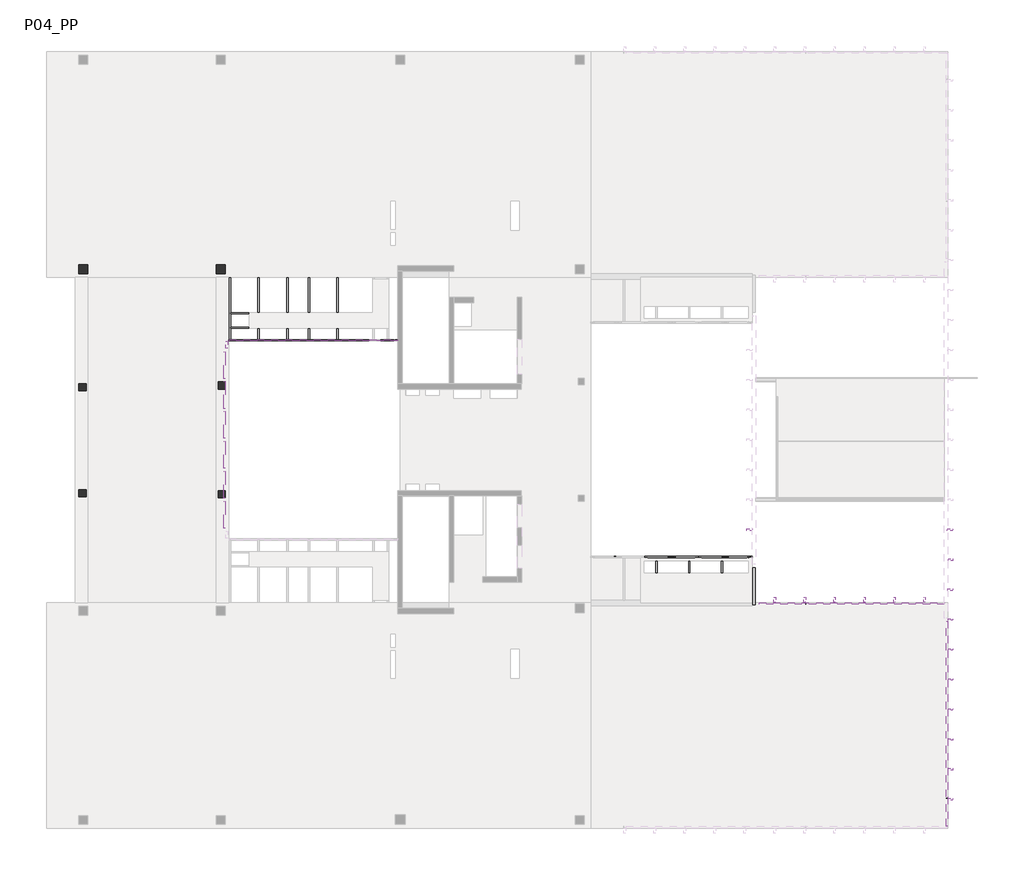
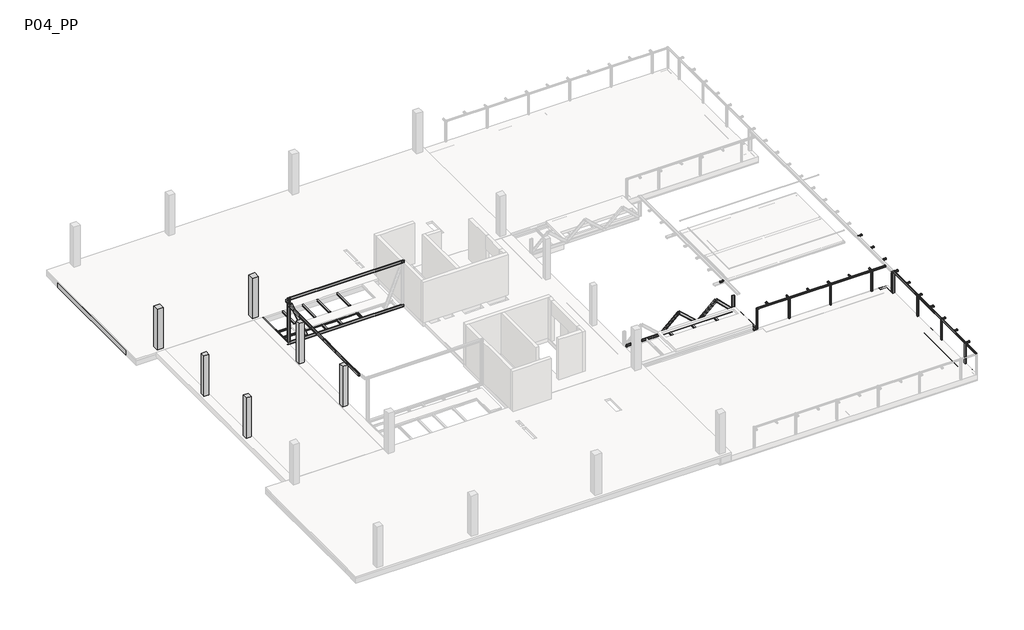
# One storey, part 3 of 5: 53 beams, 16 columns.
"""IFC4 building model written with IfcOpenShell, lengths in millimetres."""

from ifc_helpers import new_model, si_unit, frame, origin, place, context, project, spatial, polyline, outline, extrude, faceted_brep, transform, mapped, element, save
from components import m_hss_rectangular_hss_100x100_c8b4e19b, m_hss_rectangular_hss_100x100_b34a554f, m_hss_rectangular_hss_100x100_4e9eaf21, m_hss_rectangular_hss_100x100_6975e544, m_hss_rectangular_hss_100x100_2c025c62, m_hss_rectangular_hss_100x100_c08f57dd, m_hss_rectangular_hss_100x100_087ac0b1, m_hss_rectangular_hss_200x100_5f17627f, m_hss_rectangular_hss_200x100_02db10bf, m_hss_rectangular_hss_200x100_1788cd85, m_hss_rectangular_hss_200x100_fa2a969a, m_hss_rectangular_hss_200x100_f713b872, m_hss_rectangular_hss_200x100_5a28828e, ub_universal_beams_ipe_160x82_a4b44378, ub_universal_beams_ipe_160x82_3ea767f5, ub_universal_beams_ipe_160x82_7de70bc2, ub_universal_beams_ipe300x150_8c65f400, upn120x55_8ca40f5d, upn120x55_f8c29ef0, upn120x55_6f2391d9, upn200x75_1f64faac, upn200x75_ab35ba71, upn200x75_1c3169bc, upn200x75_e9c3a9f1, upn200x75_de95b273, upn200x75_58a91052, upn200x75_e630fb83, rhs_rectangular_hollow_section_column_100x100x5_0rhs_4e292c9f, rhs_rectangular_hollow_section_column_100x100x5_0rhs_ce2d9d36, rhs_rectangular_hollow_section_column_200x150x5_0rhs_b1198f0b, upn_200x75_6854b640, upn_200x75_6a680606

model = new_model("IFC4")

# Units and contexts
model_context = context("Model", 3, world=origin())
ifc_project = project(units=[si_unit("LENGTHUNIT", "METRE", prefix="MILLI")], contexts=[model_context])

# Site, building, storey
site = spatial("IfcSite", under=ifc_project)
building = spatial("IfcBuilding", under=site)
storey = spatial("IfcBuildingStorey", under=building, Name="P04_PP", Elevation=22410.0)

# Beams
placement = place(None, origin())
element("IfcBeam", 1, ObjectType="M_Concrete-Rectangular Beam : 700 x 500mm", at=placement, inside=storey, context=model_context, shape_type="Brep", body=[
    faceted_brep([(16258.7687141, -16410.5871866, 22110.0), (16758.7685986, -16410.5871866, 22110.0), (16958.7687141, -16410.5871866, 22110.0), (16958.7687141, -4560.5861501, 22110.0), (16258.7687141, -4560.5861501, 22110.0), (16258.7687141, -4760.6066112, 22110.0), (16758.7685963, -4760.6066108, 22110.0), (16758.7685966, -5260.6066108, 22110.0), (16258.7687141, -5260.6066112, 22110.0), (16958.7687141, -4560.5861501, 21610.0), (16958.7687141, -16410.5871866, 21610.0), (16758.7685986, -16410.5871866, 21610.0), (16258.7687141, -16410.5871866, 21610.0), (16258.7687141, -5260.6066112, 21610.0), (16758.7685966, -5260.6066108, 21610.0), (16758.7685963, -4760.6066108, 21610.0), (16258.7687141, -4760.6066112, 21610.0), (16258.7687141, -4560.5861501, 21610.0)], [[[0, 1, 2, 3, 4, 5, 6, 7, 8]], [[9, 3, 2, 10]], [[10, 11, 12, 13, 14, 15, 16, 17, 9]], [[4, 17, 16, 5]], [[2, 1, 0, 12, 11, 10]], [[7, 14, 13, 8]], [[14, 7, 6, 15]], [[4, 3, 9, 17]], [[15, 6, 5, 16]], [[12, 0, 8, 13]]]),
])
element("IfcBeam", 2, ObjectType="M_Concrete-Rectangular Beam : 700 x 550mm", at=placement, inside=storey, context=model_context, shape_type="SweptSolid", body=[
    extrude(outline(polyline([(-32490.2931069, 15039.4134441), (-33190.2931069, 15039.4134441), (-33190.2931069, 24589.4144807), (-32490.2931069, 24589.4144807), (-32490.2931069, 15039.4134441)])), frame((0.0, 0.0, 21860.0), z_axis=(0.0, 0.0, 1.0), x_axis=(1.0, 0.0, 0.0)), (0.0, 0.0, 1.0), 400.0),
])
m_hss_rectangular_hss_100x100_shape = m_hss_rectangular_hss_100x100_c8b4e19b(model_context)
element("IfcBeam", 3, ObjectType="M_HSS Rectangular : HSS 100x100", at=placement, inside=storey, context=model_context, shape_type="MappedRepresentation", body=[
    mapped(m_hss_rectangular_hss_100x100_shape, transform((11573.24324, -4611.4243823, 23860.0), x_axis=(0.9999999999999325, -3.676253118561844e-07, 0.0), y_axis=(3.676253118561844e-07, 0.9999999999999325, 0.0), z_axis=(0.0, 0.0, 1.0))),
])
m_hss_rectangular_hss_100x100_2_shape = m_hss_rectangular_hss_100x100_b34a554f(model_context)
element("IfcBeam", 4, ObjectType="M_HSS Rectangular : HSS 100x100", at=placement, inside=storey, context=model_context, shape_type="MappedRepresentation", body=[
    mapped(m_hss_rectangular_hss_100x100_2_shape, transform((16908.7645908, -11285.848772, 23860.0), x_axis=(-3.6762533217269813e-07, -0.9999999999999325, 0.0), y_axis=(0.9999999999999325, -3.6762533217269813e-07, 0.0), z_axis=(0.0, 0.0, 1.0))),
])
m_hss_rectangular_hss_100x100_3_shape = m_hss_rectangular_hss_100x100_4e9eaf21(model_context)
element("IfcBeam", 5, ObjectType="M_HSS Rectangular : HSS 100x100", at=placement, inside=storey, context=model_context, shape_type="MappedRepresentation", body=[
    mapped(m_hss_rectangular_hss_100x100_3_shape, transform((17073.765384, -15511.3145167, 23860.0), x_axis=(1.0, -1.2790382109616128e-09, 0.0), y_axis=(1.2790382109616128e-09, 1.0, 0.0), z_axis=(0.0, 0.0, 1.0))),
])
element("IfcBeam", 6, ObjectType="M_HSS Rectangular : HSS 100x100", at=placement, inside=storey, context=model_context, shape_type="MappedRepresentation", body=[
    mapped(m_hss_rectangular_hss_100x100_3_shape, transform((17073.765384, -12177.9207301, 23860.0), x_axis=(1.0, -1.2790382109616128e-09, 0.0), y_axis=(1.2790382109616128e-09, 1.0, 0.0), z_axis=(0.0, 0.0, 1.0))),
])
element("IfcBeam", 7, ObjectType="M_HSS Rectangular : HSS 100x100", at=placement, inside=storey, context=model_context, shape_type="MappedRepresentation", body=[
    mapped(m_hss_rectangular_hss_100x100_3_shape, transform((17073.765384, -8844.5269434, 23860.0), x_axis=(1.0, -1.2790382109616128e-09, 0.0), y_axis=(1.2790382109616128e-09, 1.0, 0.0), z_axis=(0.0, 0.0, 1.0))),
])
m_hss_rectangular_hss_100x100_4_shape = m_hss_rectangular_hss_100x100_6975e544(model_context)
element("IfcBeam", 8, ObjectType="M_HSS Rectangular : HSS 100x100", at=placement, inside=storey, context=model_context, shape_type="MappedRepresentation", body=[
    mapped(m_hss_rectangular_hss_100x100_4_shape, transform((17073.765384, -511.0424767, 23860.0), x_axis=(1.0, -1.2790382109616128e-09, 0.0), y_axis=(1.2790382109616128e-09, 1.0, 0.0), z_axis=(0.0, 0.0, 1.0))),
])
element("IfcBeam", 9, ObjectType="M_HSS Rectangular : HSS 100x100", at=placement, inside=storey, context=model_context, shape_type="MappedRepresentation", body=[
    mapped(m_hss_rectangular_hss_100x100_3_shape, transform((17073.765384, -13844.6176234, 23860.0), x_axis=(1.0, -1.2790382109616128e-09, 0.0), y_axis=(1.2790382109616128e-09, 1.0, 0.0), z_axis=(0.0, 0.0, 1.0))),
])
element("IfcBeam", 10, ObjectType="M_HSS Rectangular : HSS 100x100", at=placement, inside=storey, context=model_context, shape_type="MappedRepresentation", body=[
    mapped(m_hss_rectangular_hss_100x100_3_shape, transform((17073.765384, -10511.2238367, 23860.0), x_axis=(1.0, -1.2790382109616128e-09, 0.0), y_axis=(1.2790382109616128e-09, 1.0, 0.0), z_axis=(0.0, 0.0, 1.0))),
])
m_hss_rectangular_hss_100x100_5_shape = m_hss_rectangular_hss_100x100_2c025c62(model_context)
element("IfcBeam", 11, ObjectType="M_HSS Rectangular : HSS 100x100", at=placement, inside=storey, context=model_context, shape_type="MappedRepresentation", body=[
    mapped(m_hss_rectangular_hss_100x100_5_shape, transform((17073.765384, -7177.8300501, 23860.0), x_axis=(1.0, -1.2790382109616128e-09, 0.0), y_axis=(1.2790382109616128e-09, 1.0, 0.0), z_axis=(0.0, 0.0, 1.0))),
])
element("IfcBeam", 12, ObjectType="M_HSS Rectangular : HSS 100x100", at=placement, inside=storey, context=model_context, shape_type="MappedRepresentation", body=[
    mapped(m_hss_rectangular_hss_100x100_3_shape, transform((17073.765384, -5511.1331567, 23860.0), x_axis=(1.0, -1.2790382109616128e-09, 0.0), y_axis=(1.2790382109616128e-09, 1.0, 0.0), z_axis=(0.0, 0.0, 1.0))),
])
m_hss_rectangular_hss_100x100_6_shape = m_hss_rectangular_hss_100x100_c08f57dd(model_context)
element("IfcBeam", 13, ObjectType="M_HSS Rectangular : HSS 100x100", at=placement, inside=storey, context=model_context, shape_type="MappedRepresentation", body=[
    mapped(m_hss_rectangular_hss_100x100_6_shape, transform((17098.7524759, -3844.4362634, 23860.0), x_axis=(1.0, -1.2790382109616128e-09, 0.0), y_axis=(1.2790382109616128e-09, 1.0, 0.0), z_axis=(0.0, 0.0, 1.0))),
])
element("IfcBeam", 14, ObjectType="M_HSS Rectangular : HSS 100x100", at=placement, inside=storey, context=model_context, shape_type="MappedRepresentation", body=[
    mapped(m_hss_rectangular_hss_100x100_6_shape, transform((5918.427244, -511.0145194, 23860.0), x_axis=(1.0, -1.2790382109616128e-09, 0.0), y_axis=(1.2790382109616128e-09, 1.0, 0.0), z_axis=(0.0, 0.0, 1.0))),
])
element("IfcBeam", 15, ObjectType="M_HSS Rectangular : HSS 100x100", at=placement, inside=storey, context=model_context, shape_type="MappedRepresentation", body=[
    mapped(m_hss_rectangular_hss_100x100_3_shape, transform((15653.0129839, -4446.4224043, 23860.0), x_axis=(1.2790665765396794e-09, 1.0, 0.0), y_axis=(-1.0, 1.2790665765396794e-09, 0.0), z_axis=(0.0, 0.0, 1.0))),
])
element("IfcBeam", 16, ObjectType="M_HSS Rectangular : HSS 100x100", at=placement, inside=storey, context=model_context, shape_type="MappedRepresentation", body=[
    mapped(m_hss_rectangular_hss_100x100_3_shape, transform((12319.0129838, -4446.4224043, 23860.0), x_axis=(1.2790665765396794e-09, 1.0, 0.0), y_axis=(-1.0, 1.2790665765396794e-09, 0.0), z_axis=(0.0, 0.0, 1.0))),
])
element("IfcBeam", 17, ObjectType="M_HSS Rectangular : HSS 100x100", at=placement, inside=storey, context=model_context, shape_type="MappedRepresentation", body=[
    mapped(m_hss_rectangular_hss_100x100_3_shape, transform((8985.0129837, -4446.4224043, 23860.0), x_axis=(1.2790665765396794e-09, 1.0, 0.0), y_axis=(-1.0, 1.2790665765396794e-09, 0.0), z_axis=(0.0, 0.0, 1.0))),
])
element("IfcBeam", 18, ObjectType="M_HSS Rectangular : HSS 100x100", at=placement, inside=storey, context=model_context, shape_type="MappedRepresentation", body=[
    mapped(m_hss_rectangular_hss_100x100_3_shape, transform((7318.0129836, -4446.4224043, 23860.0), x_axis=(1.2790665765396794e-09, 1.0, 0.0), y_axis=(-1.0, 1.2790665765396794e-09, 0.0), z_axis=(0.0, 0.0, 1.0))),
])
element("IfcBeam", 19, ObjectType="M_HSS Rectangular : HSS 100x100", at=placement, inside=storey, context=model_context, shape_type="MappedRepresentation", body=[
    mapped(m_hss_rectangular_hss_100x100_3_shape, transform((13986.0129838, -4446.4224043, 23860.0), x_axis=(1.2790665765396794e-09, 1.0, 0.0), y_axis=(-1.0, 1.2790665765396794e-09, 0.0), z_axis=(0.0, 0.0, 1.0))),
])
element("IfcBeam", 20, ObjectType="M_HSS Rectangular : HSS 100x100", at=placement, inside=storey, context=model_context, shape_type="MappedRepresentation", body=[
    mapped(m_hss_rectangular_hss_100x100_3_shape, transform((10652.0129837, -4446.4224043, 23860.0), x_axis=(1.2790665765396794e-09, 1.0, 0.0), y_axis=(-1.0, 1.2790665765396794e-09, 0.0), z_axis=(0.0, 0.0, 1.0))),
])
m_hss_rectangular_hss_100x100_7_shape = m_hss_rectangular_hss_100x100_087ac0b1(model_context)
element("IfcBeam", 21, ObjectType="M_HSS Rectangular : HSS 100x100", at=placement, inside=storey, context=model_context, shape_type="MappedRepresentation", body=[
    mapped(m_hss_rectangular_hss_100x100_7_shape, transform((17098.7376541, -2177.7393701, 23860.0), x_axis=(1.0, -1.2790382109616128e-09, 0.0), y_axis=(1.2790382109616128e-09, 1.0, 0.0), z_axis=(0.0, 0.0, 1.0))),
])
m_hss_rectangular_hss_200x100_shape = m_hss_rectangular_hss_200x100_5f17627f(model_context)
element("IfcBeam", 22, ObjectType="M_HSS Rectangular : HSS 200x100", at=placement, inside=storey, context=model_context, shape_type="MappedRepresentation", body=[
    mapped(m_hss_rectangular_hss_200x100_shape, transform((-23290.3172019, 8679.8399046, 26060.0), x_axis=(-3.182446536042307e-08, -0.9999999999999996, 0.0), y_axis=(0.9999999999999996, -3.182446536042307e-08, 0.0), z_axis=(0.0, 0.0, 1.0))),
])
m_hss_rectangular_hss_200x100_2_shape = m_hss_rectangular_hss_200x100_02db10bf(model_context)
element("IfcBeam", 23, ObjectType="M_HSS Rectangular : HSS 200x100", at=placement, inside=storey, context=model_context, shape_type="MappedRepresentation", body=[
    mapped(m_hss_rectangular_hss_200x100_2_shape, transform((-23290.3172557, 6989.4139649, 26060.0), x_axis=(-3.182446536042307e-08, -0.9999999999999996, 0.0), y_axis=(0.9999999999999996, -3.182446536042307e-08, 0.0), z_axis=(0.0, 0.0, 1.0))),
])
element("IfcBeam", 24, ObjectType="M_HSS Rectangular : HSS 200x100", at=placement, inside=storey, context=model_context, shape_type="MappedRepresentation", body=[
    mapped(m_hss_rectangular_hss_200x100_2_shape, transform((-23290.3174148, 1989.4143425, 26060.0), x_axis=(-3.182446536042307e-08, -0.9999999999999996, 0.0), y_axis=(0.9999999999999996, -3.182446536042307e-08, 0.0), z_axis=(0.0, 0.0, 1.0))),
])
m_hss_rectangular_hss_200x100_3_shape = m_hss_rectangular_hss_200x100_1788cd85(model_context)
element("IfcBeam", 25, ObjectType="M_HSS Rectangular : HSS 200x100", at=placement, inside=storey, context=model_context, shape_type="MappedRepresentation", body=[
    mapped(m_hss_rectangular_hss_200x100_3_shape, transform((-23290.3173087, 5322.9883919, 26060.0), x_axis=(-3.182446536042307e-08, -0.9999999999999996, 0.0), y_axis=(0.9999999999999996, -3.182446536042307e-08, 0.0), z_axis=(0.0, 0.0, 1.0))),
])
m_hss_rectangular_hss_200x100_4_shape = m_hss_rectangular_hss_200x100_fa2a969a(model_context)
element("IfcBeam", 26, ObjectType="M_HSS Rectangular : HSS 200x100", at=placement, inside=storey, context=model_context, shape_type="MappedRepresentation", body=[
    mapped(m_hss_rectangular_hss_200x100_4_shape, transform((-23290.3173618, 3656.3218509, 26060.0), x_axis=(-3.182446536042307e-08, -0.9999999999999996, 0.0), y_axis=(0.9999999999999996, -3.182446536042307e-08, 0.0), z_axis=(0.0, 0.0, 1.0))),
])
m_hss_rectangular_hss_200x100_5_shape = m_hss_rectangular_hss_200x100_f713b872(model_context)
element("IfcBeam", 27, ObjectType="M_HSS Rectangular : HSS 200x100", at=placement, inside=storey, context=model_context, shape_type="MappedRepresentation", body=[
    mapped(m_hss_rectangular_hss_200x100_5_shape, transform((-23290.3174678, 322.7478039, 26060.0), x_axis=(-3.182446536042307e-08, -0.9999999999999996, 0.0), y_axis=(0.9999999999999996, -3.182446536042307e-08, 0.0), z_axis=(0.0, 0.0, 1.0))),
])
m_hss_rectangular_hss_200x100_6_shape = m_hss_rectangular_hss_200x100_5a28828e(model_context)
element("IfcBeam", 28, ObjectType="M_HSS Rectangular : HSS 200x100", at=placement, inside=storey, context=model_context, shape_type="MappedRepresentation", body=[
    mapped(m_hss_rectangular_hss_200x100_6_shape, transform((-23160.3171618, 9792.3965304, 26060.0), x_axis=(0.0, 1.0, 0.0), y_axis=(-1.0, 0.0, 0.0), z_axis=(0.0, 0.0, 1.0))),
])
ub_universal_beams_ipe_160x82_shape = ub_universal_beams_ipe_160x82_a4b44378(model_context)
element("IfcBeam", 29, ObjectType="UB-Universal Beams : IPE 160x82", at=placement, inside=storey, context=model_context, shape_type="MappedRepresentation", body=[
    mapped(ub_universal_beams_ipe_160x82_shape, transform((-16990.4459316, 12171.9464061, 22330.0), x_axis=(0.0, -1.0, 0.0), y_axis=(1.0, 0.0, 0.0), z_axis=(0.0, 0.0, 1.0))),
])
element("IfcBeam", 30, ObjectType="UB-Universal Beams : IPE 160x82", at=placement, inside=storey, context=model_context, shape_type="MappedRepresentation", body=[
    mapped(ub_universal_beams_ipe_160x82_shape, transform((-18590.4459308, 12171.9463807, 22330.0), x_axis=(0.0, -1.0, 0.0), y_axis=(1.0, 0.0, 0.0), z_axis=(0.0, 0.0, 1.0))),
])
element("IfcBeam", 31, ObjectType="UB-Universal Beams : IPE 160x82", at=placement, inside=storey, context=model_context, shape_type="MappedRepresentation", body=[
    mapped(ub_universal_beams_ipe_160x82_shape, transform((-19790.4459314, 12171.9463617, 22330.0), x_axis=(0.0, -1.0, 0.0), y_axis=(1.0, 0.0, 0.0), z_axis=(0.0, 0.0, 1.0))),
])
element("IfcBeam", 32, ObjectType="UB-Universal Beams : IPE 160x82", at=placement, inside=storey, context=model_context, shape_type="MappedRepresentation", body=[
    mapped(ub_universal_beams_ipe_160x82_shape, transform((-21390.4459306, 12171.9463363, 22330.0), x_axis=(0.0, -1.0, 0.0), y_axis=(1.0, 0.0, 0.0), z_axis=(0.0, 0.0, 1.0))),
])
ub_universal_beams_ipe_160x82_2_shape = ub_universal_beams_ipe_160x82_3ea767f5(model_context)
element("IfcBeam", 33, ObjectType="UB-Universal Beams : IPE 160x82", at=placement, inside=storey, context=model_context, shape_type="MappedRepresentation", body=[
    mapped(ub_universal_beams_ipe_160x82_2_shape, transform((-22991.1860553, 12171.9463109, 22330.0), x_axis=(0.0, -1.0, 0.0), y_axis=(1.0, 0.0, 0.0), z_axis=(0.0, 0.0, 1.0))),
])
ub_universal_beams_ipe_160x82_3_shape = ub_universal_beams_ipe_160x82_7de70bc2(model_context)
element("IfcBeam", 34, ObjectType="UB-Universal Beams : IPE 160x82", at=placement, inside=storey, context=model_context, shape_type="MappedRepresentation", body=[
    mapped(ub_universal_beams_ipe_160x82_3_shape, transform((748.7433116, -3333.1913576, 22330.0), x_axis=(3.499064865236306e-06, 0.9999999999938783, 0.0), y_axis=(-0.9999999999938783, 3.499064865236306e-06, 0.0), z_axis=(0.0, 0.0, 1.0))),
])
element("IfcBeam", 35, ObjectType="UB-Universal Beams : IPE 160x82", at=placement, inside=storey, context=model_context, shape_type="MappedRepresentation", body=[
    mapped(ub_universal_beams_ipe_160x82_3_shape, transform((2565.2255424, -3333.1913287, 22330.0), x_axis=(3.4989007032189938e-06, 0.9999999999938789, 0.0), y_axis=(-0.9999999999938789, 3.4989007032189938e-06, 0.0), z_axis=(0.0, 0.0, 1.0))),
])
element("IfcBeam", 36, ObjectType="UB-Universal Beams : IPE 160x82", at=placement, inside=storey, context=model_context, shape_type="MappedRepresentation", body=[
    mapped(ub_universal_beams_ipe_160x82_3_shape, transform((4381.7077724, -3333.1912999, 22330.0), x_axis=(3.499229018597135e-06, 0.9999999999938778, 0.0), y_axis=(-0.9999999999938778, 3.499229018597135e-06, 0.0), z_axis=(0.0, 0.0, 1.0))),
])
ub_universal_beams_ipe300x150_shape = ub_universal_beams_ipe300x150_8c65f400(model_context)
element("IfcBeam", 37, ObjectType="UB-Universal Beams : IPE300x150", at=placement, inside=storey, context=model_context, shape_type="MappedRepresentation", body=[
    mapped(ub_universal_beams_ipe300x150_shape, transform((6163.8308521, -3639.3504657, 22260.0), x_axis=(0.0, -1.0, 0.0), y_axis=(1.0, 0.0, 0.0), z_axis=(0.0, 0.0, 1.0))),
])
upn120x55_shape = upn120x55_8ca40f5d(model_context)
element("IfcBeam", 38, ObjectType="M_MC Shapes : UPN120x55", at=placement, inside=storey, context=model_context, shape_type="MappedRepresentation", body=[
    mapped(upn120x55_shape, transform((-22165.4459321, 11551.9793105, 22350.0), x_axis=(0.9999999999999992, 4.0441290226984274e-08, 0.0), y_axis=(-4.0441290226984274e-08, 0.9999999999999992, 0.0), z_axis=(0.0, 0.0, 1.0))),
])
element("IfcBeam", 39, ObjectType="M_MC Shapes : UPN120x55", at=placement, inside=storey, context=model_context, shape_type="MappedRepresentation", body=[
    mapped(upn120x55_shape, transform((-22165.4459321, 10751.9793096, 22350.0), x_axis=(0.9999999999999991, 4.319865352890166e-08, 0.0), y_axis=(-4.319865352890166e-08, 0.9999999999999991, 0.0), z_axis=(0.0, 0.0, 1.0))),
])
upn120x55_2_shape = upn120x55_f8c29ef0(model_context)
element("IfcBeam", 40, ObjectType="M_MC Shapes : UPN120x55", at=placement, inside=storey, context=model_context, shape_type="MappedRepresentation", body=[
    mapped(upn120x55_2_shape, transform((-20590.445931, 10751.9793776, 22350.0), x_axis=(0.9999999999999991, 4.319865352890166e-08, 0.0), y_axis=(-4.319865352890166e-08, 0.9999999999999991, 0.0), z_axis=(0.0, 0.0, 1.0))),
])
element("IfcBeam", 41, ObjectType="M_MC Shapes : UPN120x55", at=placement, inside=storey, context=model_context, shape_type="MappedRepresentation", body=[
    mapped(upn120x55_2_shape, transform((-17790.4459312, 10751.9794985, 22350.0), x_axis=(0.9999999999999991, 4.319865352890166e-08, 0.0), y_axis=(-4.319865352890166e-08, 0.9999999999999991, 0.0), z_axis=(0.0, 0.0, 1.0))),
])
element("IfcBeam", 42, ObjectType="M_MC Shapes : UPN120x55", at=placement, inside=storey, context=model_context, shape_type="MappedRepresentation", body=[
    mapped(upn120x55_2_shape, transform((-20590.445931, 11551.9793742, 22350.0), x_axis=(0.9999999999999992, 4.0441290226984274e-08, 0.0), y_axis=(-4.0441290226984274e-08, 0.9999999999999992, 0.0), z_axis=(0.0, 0.0, 1.0))),
])
element("IfcBeam", 43, ObjectType="M_MC Shapes : UPN120x55", at=placement, inside=storey, context=model_context, shape_type="MappedRepresentation", body=[
    mapped(upn120x55_2_shape, transform((-17790.4459312, 11551.9794874, 22350.0), x_axis=(0.9999999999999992, 4.0441290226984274e-08, 0.0), y_axis=(-4.0441290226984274e-08, 0.9999999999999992, 0.0), z_axis=(0.0, 0.0, 1.0))),
])
upn120x55_3_shape = upn120x55_6f2391d9(model_context)
element("IfcBeam", 44, ObjectType="M_MC Shapes : UPN120x55", at=placement, inside=storey, context=model_context, shape_type="MappedRepresentation", body=[
    mapped(upn120x55_3_shape, transform((-19190.4459311, 10751.9794381, 22350.0), x_axis=(0.9999999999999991, 4.319865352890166e-08, 0.0), y_axis=(-4.319865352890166e-08, 0.9999999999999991, 0.0), z_axis=(0.0, 0.0, 1.0))),
])
element("IfcBeam", 45, ObjectType="M_MC Shapes : UPN120x55", at=placement, inside=storey, context=model_context, shape_type="MappedRepresentation", body=[
    mapped(upn120x55_3_shape, transform((-19190.4459311, 11551.9794308, 22350.0), x_axis=(0.9999999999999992, 4.0441290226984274e-08, 0.0), y_axis=(-4.0441290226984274e-08, 0.9999999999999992, 0.0), z_axis=(0.0, 0.0, 1.0))),
])
upn200x75_shape = upn200x75_1f64faac(model_context)
element("IfcBeam", 46, ObjectType="M_MC Shapes : UPN200x75", at=placement, inside=storey, context=model_context, shape_type="MappedRepresentation", body=[
    mapped(upn200x75_shape, transform((-22208.7675596, 10001.2791702, 24230.6012021), x_axis=(-0.3712989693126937, 1.179124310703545e-08, 0.9285133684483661), y_axis=(3.175673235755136e-08, 0.9999999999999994, 0.0), z_axis=(-0.9285133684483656, 2.9486550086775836e-08, -0.3712989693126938))),
])
upn200x75_2_shape = upn200x75_ab35ba71(model_context)
element("IfcBeam", 47, ObjectType="M_MC Shapes : UPN200x75", at=placement, inside=storey, context=model_context, shape_type="MappedRepresentation", body=[
    mapped(upn200x75_2_shape, transform((-18453.2517869, 10001.2793219, 22310.0), x_axis=(0.9999999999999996, 3.175670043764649e-08, 0.0), y_axis=(-3.175670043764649e-08, 0.9999999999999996, 0.0), z_axis=(0.0, 0.0, 1.0))),
])
upn200x75_3_shape = upn200x75_1c3169bc(model_context)
element("IfcBeam", 48, ObjectType="M_MC Shapes : UPN200x75", at=placement, inside=storey, context=model_context, shape_type="MappedRepresentation", body=[
    mapped(upn200x75_3_shape, transform((2321.5369207, -2010.7318503, 22985.0000184), x_axis=(0.743294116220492, -1.1576576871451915e-08, -0.6689647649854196), y_axis=(-1.5574694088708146e-08, -1.0, 0.0), z_axis=(-0.6689647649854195, 1.041892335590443e-08, -0.7432941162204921))),
])
upn200x75_4_shape = upn200x75_e9c3a9f1(model_context)
element("IfcBeam", 49, ObjectType="M_MC Shapes : UPN200x75", at=placement, inside=storey, context=model_context, shape_type="MappedRepresentation", body=[
    mapped(upn200x75_4_shape, transform((3821.5369615, -2010.7318584, 22985.0000184), x_axis=(-0.7432941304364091, -1.1576555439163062e-08, -0.6689647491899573), y_axis=(-1.5574660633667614e-08, 1.0, 0.0), z_axis=(0.6689647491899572, 1.0418897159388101e-08, -0.7432941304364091))),
])
element("IfcBeam", 50, ObjectType="M_MC Shapes : UPN200x75", at=placement, inside=storey, context=model_context, shape_type="MappedRepresentation", body=[
    mapped(upn200x75_4_shape, transform((821.5369591, -2010.7318569, 22985.0000184), x_axis=(-0.7432941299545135, -1.1573262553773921e-08, -0.6689647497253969), y_axis=(-1.5570230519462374e-08, 1.0, 0.0), z_axis=(0.6689647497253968, 1.0415933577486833e-08, -0.7432941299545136))),
])
upn200x75_5_shape = upn200x75_de95b273(model_context)
element("IfcBeam", 51, ObjectType="M_MC Shapes : UPN200x75", at=placement, inside=storey, context=model_context, shape_type="MappedRepresentation", body=[
    mapped(upn200x75_5_shape, transform((1566.4513123, -2010.7317513, 22310.0), x_axis=(0.9999999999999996, -3.175673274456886e-08, 0.0), y_axis=(3.175673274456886e-08, 0.9999999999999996, 0.0), z_axis=(0.0, 0.0, 1.0))),
])
upn200x75_6_shape = upn200x75_58a91052(model_context)
element("IfcBeam", 52, ObjectType="M_MC Shapes : UPN200x75", at=placement, inside=storey, context=model_context, shape_type="MappedRepresentation", body=[
    mapped(upn200x75_6_shape, transform((5259.036978, -2010.7318482, 22985.0000184), x_axis=(0.713563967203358, -1.1791251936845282e-08, -0.7005900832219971), y_axis=(-1.652445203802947e-08, -0.9999999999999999, 0.0), z_axis=(-0.7005900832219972, 1.1576868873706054e-08, -0.713563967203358))),
])
upn200x75_7_shape = upn200x75_e630fb83(model_context)
element("IfcBeam", 53, ObjectType="M_MC Shapes : UPN200x75", at=placement, inside=storey, context=model_context, shape_type="MappedRepresentation", body=[
    mapped(upn200x75_7_shape, transform((-18278.2406773, 10001.2793274, 26060.0), x_axis=(0.9999999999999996, 3.175670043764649e-08, 0.0), y_axis=(-3.175670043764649e-08, 0.9999999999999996, 0.0), z_axis=(0.0, 0.0, 1.0))),
])

# Columns
element("IfcColumn", 54, ObjectType="Concrete-Rectangular-Column : Pilar_Rectangular-Formigo-400x400", at=placement, inside=storey, context=model_context, shape_type="Brep", body=[
    faceted_brep([(-23241.1836565, 1664.4139855, 22110.0), (-23241.1836563, 1264.4139855, 22110.0), (-23641.1836563, 1264.4139854, 22110.0), (-23641.1836565, 1664.4139854, 22110.0), (-23241.1836565, 1664.4139855, 25860.0), (-23241.1836563, 1264.4139855, 25860.0), (-23241.1836563, 1264.4139855, 25460.0), (-23241.1836563, 1264.4139855, 22410.0), (-23241.1836565, 1664.4139855, 22410.0), (-23241.1836565, 1664.4139855, 25460.0), (-23641.1836563, 1264.4139854, 25860.0), (-23641.1836563, 1264.4139854, 25460.0), (-23641.1836563, 1264.4139854, 22410.0), (-23641.1836565, 1664.4139854, 25860.0), (-23641.1836565, 1664.4139854, 25460.0), (-23641.1836565, 1664.4139854, 22410.0)], [[[0, 1, 2, 3]], [[4, 5, 6, 7, 1, 0, 8, 9]], [[5, 10, 11, 12, 2, 1, 7, 6]], [[10, 13, 14, 15, 3, 2, 12, 11]], [[13, 4, 9, 8, 0, 3, 15, 14]], [[4, 13, 10, 5]]]),
])
element("IfcColumn", 55, ObjectType="Concrete-Rectangular-Column : Pilar_Rectangular-Formigo-400x400", at=placement, inside=storey, context=model_context, shape_type="Brep", body=[
    faceted_brep([(-23241.1836617, 7714.4139908, 22110.0), (-23241.1836661, 7314.4139908, 22110.0), (-23641.1836661, 7314.4139951, 22110.0), (-23641.1836617, 7714.4139951, 22110.0), (-23241.1836617, 7714.4139908, 25860.0), (-23241.1836661, 7314.4139908, 25860.0), (-23241.1836661, 7314.4139908, 25460.0), (-23241.1836661, 7314.4139908, 22410.0), (-23241.1836617, 7714.4139908, 22410.0), (-23241.1836617, 7714.4139908, 25460.0), (-23641.1836661, 7314.4139951, 25860.0), (-23641.1836661, 7314.4139951, 25460.0), (-23641.1836661, 7314.4139951, 22410.0), (-23641.1836617, 7714.4139951, 25860.0), (-23641.1836617, 7714.4139951, 25460.0), (-23641.1836617, 7714.4139951, 22410.0)], [[[0, 1, 2, 3]], [[4, 5, 6, 7, 1, 0, 8, 9]], [[5, 10, 11, 12, 2, 1, 7, 6]], [[10, 13, 14, 15, 3, 2, 12, 11]], [[13, 4, 9, 8, 0, 3, 15, 14]], [[4, 13, 10, 5]]]),
])
element("IfcColumn", 56, ObjectType="Concrete-Rectangular-Column : Pilar_Rectangular-Formigo-500x500", at=placement, inside=storey, context=model_context, shape_type="Brep", body=[
    faceted_brep([(-23241.2178866, 14239.3934141, 22410.0), (-23241.2178864, 13739.3934141, 22410.0), (-23741.2178864, 13739.3934138, 22410.0), (-23741.2178866, 14239.3934138, 22410.0), (-23241.2178866, 14239.3934141, 25860.0), (-23241.2178864, 13739.3934141, 25860.0), (-23241.2178864, 13739.3934141, 25560.0), (-23241.2178864, 13739.3934141, 25460.0), (-23241.2178866, 14239.3934141, 25460.0), (-23241.2178866, 14239.3934141, 25560.0), (-23741.2178864, 13739.3934138, 25860.0), (-23741.2178864, 13739.3934138, 25560.0), (-23741.2178866, 14239.3934138, 25860.0), (-23741.2178866, 14239.3934138, 25560.0)], [[[0, 1, 2, 3]], [[4, 5, 6, 7, 1, 0, 8, 9]], [[5, 10, 11, 2, 1, 7, 6]], [[10, 12, 13, 3, 2, 11]], [[12, 4, 9, 8, 0, 3, 13]], [[4, 12, 10, 5]]]),
])
element("IfcColumn", 57, ObjectType="Concrete-Rectangular-Column : Pilar_Rectangular-Formigo-400x400", at=placement, inside=storey, context=model_context, shape_type="Brep", body=[
    faceted_brep([(-30991.2254277, 1714.2136415, 22110.0), (-30991.2254279, 1314.2136415, 22110.0), (-31391.2254279, 1314.2136417, 22110.0), (-31391.2254277, 1714.2136417, 22110.0), (-30991.2254277, 1714.2136415, 25860.0), (-30991.2254279, 1314.2136415, 25860.0), (-30991.2254279, 1314.2136415, 25460.0), (-30991.2254279, 1314.2136415, 22410.0), (-30991.2254277, 1714.2136415, 22410.0), (-30991.2254277, 1714.2136415, 25460.0), (-31391.2254279, 1314.2136417, 25860.0), (-31391.2254279, 1314.2136417, 25460.0), (-31391.2254279, 1314.2136417, 22410.0), (-31391.2254277, 1714.2136417, 25860.0), (-31391.2254277, 1714.2136417, 25460.0), (-31391.2254277, 1714.2136417, 22410.0)], [[[0, 1, 2, 3]], [[4, 5, 6, 7, 1, 0, 8, 9]], [[5, 10, 11, 12, 2, 1, 7, 6]], [[10, 13, 14, 15, 3, 2, 12, 11]], [[13, 4, 9, 8, 0, 3, 15, 14]], [[4, 13, 10, 5]]]),
])
element("IfcColumn", 58, ObjectType="Concrete-Rectangular-Column : Pilar_Rectangular-Formigo-400x400", at=placement, inside=storey, context=model_context, shape_type="Brep", body=[
    faceted_brep([(-30991.2252559, 7614.2151427, 22110.0), (-30991.2252559, 7214.2151427, 22110.0), (-31391.2252559, 7214.2151427, 22110.0), (-31391.2252559, 7614.2151427, 22110.0), (-30991.2252559, 7614.2151427, 25860.0), (-30991.2252559, 7214.2151427, 25860.0), (-30991.2252559, 7214.2151427, 25460.0), (-30991.2252559, 7214.2151427, 22410.0), (-30991.2252559, 7614.2151427, 22410.0), (-30991.2252559, 7614.2151427, 25460.0), (-31391.2252559, 7214.2151427, 25860.0), (-31391.2252559, 7214.2151427, 25460.0), (-31391.2252559, 7214.2151427, 22410.0), (-31391.2252559, 7614.2151427, 25860.0), (-31391.2252559, 7614.2151427, 25460.0), (-31391.2252559, 7614.2151427, 22410.0)], [[[0, 1, 2, 3]], [[4, 5, 6, 7, 1, 0, 8, 9]], [[5, 10, 11, 12, 2, 1, 7, 6]], [[10, 13, 14, 15, 3, 2, 12, 11]], [[13, 4, 9, 8, 0, 3, 15, 14]], [[4, 13, 10, 5]]]),
])
element("IfcColumn", 59, ObjectType="Concrete-Rectangular-Column : Pilar_Rectangular-Formigo-500x500", at=placement, inside=storey, context=model_context, shape_type="Brep", body=[
    faceted_brep([(-30891.2593058, 14239.3934096, 22410.0), (-30891.2593061, 13739.3934096, 22410.0), (-31391.2593061, 13739.3934099, 22410.0), (-31391.2593058, 14239.3934099, 22410.0), (-30891.2593058, 14239.3934096, 25860.0), (-30891.2593061, 13739.3934096, 25860.0), (-30891.2593061, 13739.3934096, 25560.0), (-30891.2593058, 14239.3934096, 25560.0), (-31391.2593061, 13739.3934099, 25860.0), (-31391.2593061, 13739.3934099, 25560.0), (-31391.2593061, 13739.3934099, 25460.0), (-31391.2593058, 14239.3934099, 25860.0), (-31391.2593058, 14239.3934099, 25560.0), (-31391.2593058, 14239.3934099, 25460.0)], [[[0, 1, 2, 3]], [[4, 5, 6, 1, 0, 7]], [[5, 8, 9, 10, 2, 1, 6]], [[8, 11, 12, 13, 3, 2, 10, 9]], [[11, 4, 7, 0, 3, 13, 12]], [[4, 11, 8, 5]]]),
])
rhs_rectangular_hollow_section_column_100x100x5_0rhs_shape = rhs_rectangular_hollow_section_column_100x100x5_0rhs_4e292c9f(model_context)
element("IfcColumn", 60, ObjectType="RHS-Rectangular Hollow Section-Column : 100x100x5.0RHS", at=placement, inside=storey, context=model_context, shape_type="MappedRepresentation", body=[
    mapped(rhs_rectangular_hollow_section_column_100x100x5_0rhs_shape, transform((15653.0129829, -4611.424206, 0.0), x_axis=(1.0, 6.297238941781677e-09, 0.0), y_axis=(-6.297238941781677e-09, 1.0, 0.0), z_axis=(0.0, 0.0, 1.0))),
])
element("IfcColumn", 61, ObjectType="RHS-Rectangular Hollow Section-Column : 100x100x5.0RHS", at=placement, inside=storey, context=model_context, shape_type="MappedRepresentation", body=[
    mapped(rhs_rectangular_hollow_section_column_100x100x5_0rhs_shape, transform((12319.0129829, -4611.424206, 0.0), x_axis=(1.0, 6.297238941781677e-09, 0.0), y_axis=(-6.297238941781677e-09, 1.0, 0.0), z_axis=(0.0, 0.0, 1.0))),
])
element("IfcColumn", 62, ObjectType="RHS-Rectangular Hollow Section-Column : 100x100x5.0RHS", at=placement, inside=storey, context=model_context, shape_type="MappedRepresentation", body=[
    mapped(rhs_rectangular_hollow_section_column_100x100x5_0rhs_shape, transform((8985.0129829, -4611.424206, 0.0), x_axis=(1.0, 6.297238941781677e-09, 0.0), y_axis=(-6.297238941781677e-09, 1.0, 0.0), z_axis=(0.0, 0.0, 1.0))),
])
element("IfcColumn", 63, ObjectType="RHS-Rectangular Hollow Section-Column : 100x100x5.0RHS", at=placement, inside=storey, context=model_context, shape_type="MappedRepresentation", body=[
    mapped(rhs_rectangular_hollow_section_column_100x100x5_0rhs_shape, transform((6388.0593345, -4611.424206, 0.0), x_axis=(1.0, 6.297238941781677e-09, 0.0), y_axis=(-6.297238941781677e-09, 1.0, 0.0), z_axis=(0.0, 0.0, 1.0))),
])
rhs_rectangular_hollow_section_column_100x100x5_0rhs_2_shape = rhs_rectangular_hollow_section_column_100x100x5_0rhs_ce2d9d36(model_context)
element("IfcColumn", 64, ObjectType="RHS-Rectangular Hollow Section-Column : 100x100x5.0RHS", at=placement, inside=storey, context=model_context, shape_type="MappedRepresentation", body=[
    mapped(rhs_rectangular_hollow_section_column_100x100x5_0rhs_2_shape, transform((16908.7651699, -15511.3145165, 0.0), x_axis=(1.0, -1.2790344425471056e-09, 0.0), y_axis=(1.2790344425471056e-09, 1.0, 0.0), z_axis=(0.0, 0.0, 1.0))),
])
element("IfcColumn", 65, ObjectType="RHS-Rectangular Hollow Section-Column : 100x100x5.0RHS", at=placement, inside=storey, context=model_context, shape_type="MappedRepresentation", body=[
    mapped(rhs_rectangular_hollow_section_column_100x100x5_0rhs_2_shape, transform((16908.7651699, -12177.9145165, 0.0), x_axis=(1.0, -1.2790344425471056e-09, 0.0), y_axis=(1.2790344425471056e-09, 1.0, 0.0), z_axis=(0.0, 0.0, 1.0))),
])
element("IfcColumn", 66, ObjectType="RHS-Rectangular Hollow Section-Column : 100x100x5.0RHS", at=placement, inside=storey, context=model_context, shape_type="MappedRepresentation", body=[
    mapped(rhs_rectangular_hollow_section_column_100x100x5_0rhs_2_shape, transform((16908.7651699, -8844.5145165, 0.0), x_axis=(1.0, -1.2790344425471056e-09, 0.0), y_axis=(1.2790344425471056e-09, 1.0, 0.0), z_axis=(0.0, 0.0, 1.0))),
])
rhs_rectangular_hollow_section_column_200x150x5_0rhs_shape = rhs_rectangular_hollow_section_column_200x150x5_0rhs_b1198f0b(model_context)
element("IfcColumn", 67, ObjectType="RHS-Rectangular Hollow Section-Column : 200x150x5.0RHS", at=placement, inside=storey, context=model_context, shape_type="MappedRepresentation", body=[
    mapped(rhs_rectangular_hollow_section_column_200x150x5_0rhs_shape, transform((16858.7642648, -5511.1145165, 0.0), x_axis=(1.0, -1.2790373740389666e-09, 0.0), y_axis=(1.2790373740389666e-09, 1.0, 0.0), z_axis=(0.0, 0.0, 1.0))),
])
upn_200x75_shape = upn_200x75_6854b640(model_context)
element("IfcColumn", 68, ObjectType="M_MC Shapes-Column : UPN 200x75", at=placement, inside=storey, context=model_context, shape_type="MappedRepresentation", body=[
    mapped(upn_200x75_shape, transform((-22940.3175218, 10016.7789198, 0.0), x_axis=(3.1229579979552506e-08, 0.9999999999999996, 0.0), y_axis=(-0.9999999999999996, 3.1229579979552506e-08, 0.0), z_axis=(0.0, 0.0, 1.0))),
])
upn_200x75_2_shape = upn_200x75_6a680606(model_context)
element("IfcColumn", 69, ObjectType="M_MC Shapes-Column : UPN 200x75", at=placement, inside=storey, context=model_context, shape_type="MappedRepresentation", body=[
    mapped(upn_200x75_2_shape, transform((5958.8308526, -2026.2316122, 0.0), x_axis=(-3.122957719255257e-08, -0.9999999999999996, 0.0), y_axis=(0.9999999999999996, -3.122957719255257e-08, 0.0), z_axis=(0.0, 0.0, 1.0))),
])

save(model, "model.ifc")
